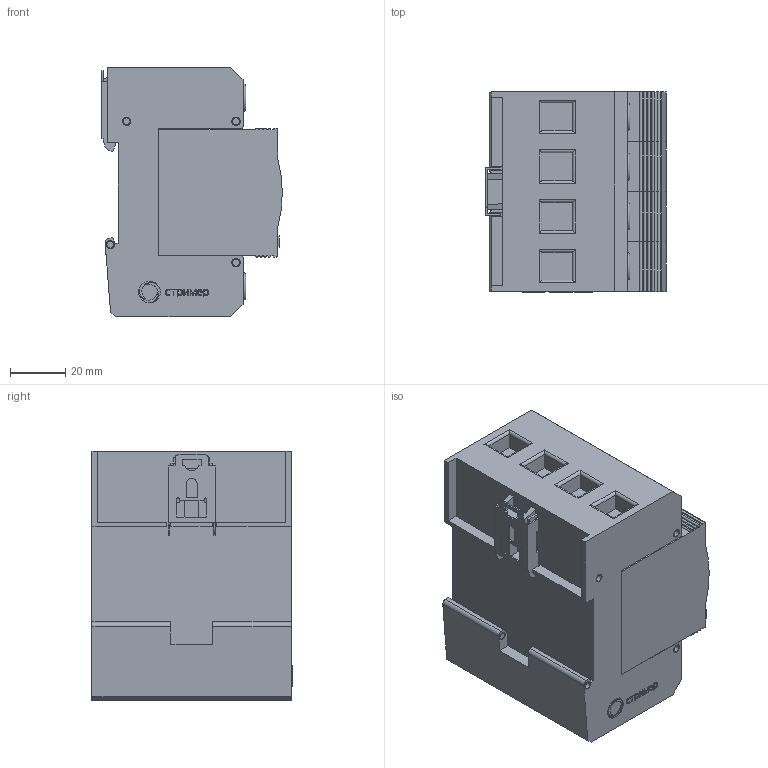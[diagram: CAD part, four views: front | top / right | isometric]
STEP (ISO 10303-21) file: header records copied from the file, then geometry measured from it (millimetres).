
FILE_DESCRIPTION(('TFLEX Exchange Step'),'2;1');
FILE_NAME('X2\041004400442\X0\.124_001.stp', '2022-08-30T14:14:19+03:00',('Ivan Berdigulov'),('Unknown organisation'),'TFLEX Exchange 2019.2','T-FLEX CAD','Unknown authorisation');
FILE_SCHEMA( ('AUTOMOTIVE_DESIGN { 1 0 10303 214 1 1 1 1 }') );
Length unit declared in the file: millimetre
Products named in the file (2): 0
Assembly tree (1 placements, depth 2):
  0
    0
Bounding box: 65.19 x 72.2 x 90 mm (x, y, z)
Volume: 335657.9 mm3; surface area: 67800.3 mm2
Topology: 52 solids, 52 shells, 730 faces, 1906 edges, 1296 vertices
Faces by surface type: plane 505, cylinder 115, bspline 105, torus 5
Full cylindrical faces by diameter (mm): 2.5 x13, 3 x13
Entity records: 26602 total; most frequent: CARTESIAN_POINT 9096, ORIENTED_EDGE 3750, DIRECTION 3138, EDGE_CURVE 1875, VECTOR 1310, LINE 1310, VERTEX_POINT 1296, AXIS2_PLACEMENT_3D 914
